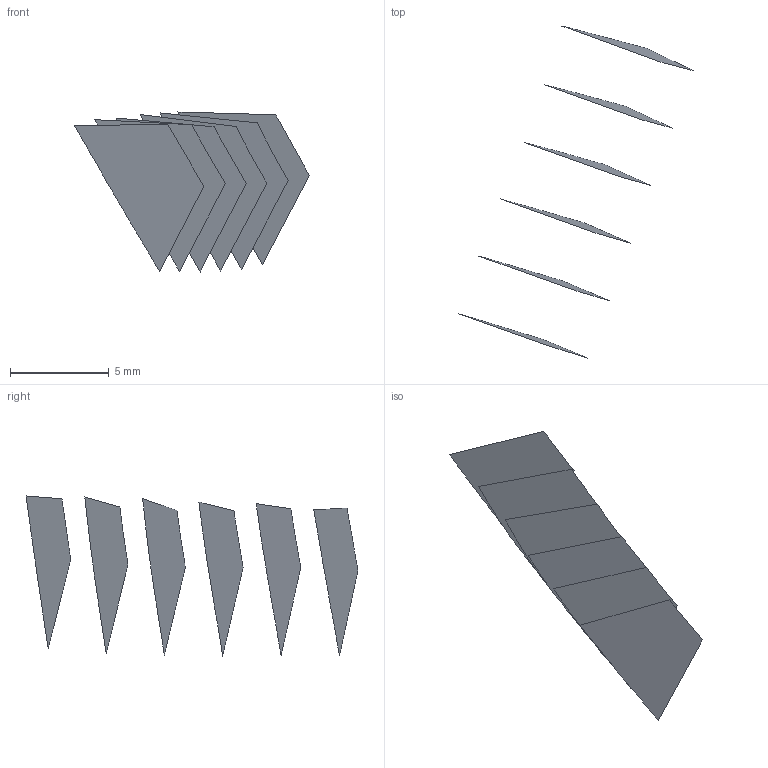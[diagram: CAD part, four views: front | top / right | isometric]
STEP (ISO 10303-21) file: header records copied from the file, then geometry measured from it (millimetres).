
FILE_DESCRIPTION(('FreeCAD Model'),'2;1');
FILE_NAME('Open CASCADE Shape Model','2022-05-22T07:50:31',('FreeCAD'),( 'FreeCAD'),'Open CASCADE STEP processor 7.5','FreeCAD','Unknown');
FILE_SCHEMA(('AUTOMOTIVE_DESIGN { 1 0 10303 214 1 1 1 1 }'));
Length unit declared in the file: millimetre
Products named in the file (7): Open CASCADE STEP translator 7.5 55; Open CASCADE STEP translator 7.5 55.1; Open CASCADE STEP translator 7.5 55.2; Open CASCADE STEP translator 7.5 55.3; Open CASCADE STEP translator 7.5 55.4; Open CASCADE STEP translator 7.5 55.5; Open CASCADE STEP translator 7.5 55.6
Assembly tree (6 placements, depth 2):
  Open CASCADE STEP translator 7.5 55
    Open CASCADE STEP translator 7.5 55.1
    Open CASCADE STEP translator 7.5 55.2
    Open CASCADE STEP translator 7.5 55.3
    Open CASCADE STEP translator 7.5 55.4
    Open CASCADE STEP translator 7.5 55.5
    Open CASCADE STEP translator 7.5 55.6
Bounding box: 11.87 x 16.77 x 8.09 mm (x, y, z)
Surface area: 164.8 mm2 (no closed solid volume)
Topology: 0 solids, 6 shells, 6 faces, 132 edges, 132 vertices
Faces by surface type: bspline 6
Entity records: 1900 total; most frequent: CARTESIAN_POINT 691, B_SPLINE_CURVE_WITH_KNOTS 264, ORIENTED_EDGE 132, EDGE_CURVE 132, VERTEX_POINT 132, SURFACE_CURVE 132, PCURVE 132, DEFINITIONAL_REPRESENTATION 132
